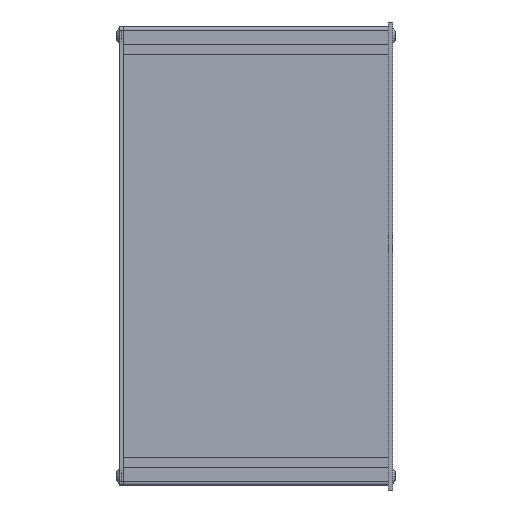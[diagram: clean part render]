
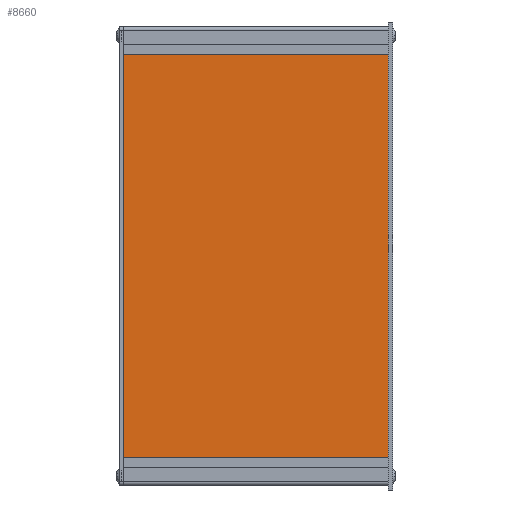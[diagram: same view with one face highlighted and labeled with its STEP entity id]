
A CAD part, left-side view. The second image highlights one B-rep face of the part: STEP entity #8660.
In plain terms, the highlighted planar face has unit normal (-1, 0, 0).
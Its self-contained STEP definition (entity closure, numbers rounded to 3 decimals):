
#952=PLANE('',#9524);
#1250=FACE_OUTER_BOUND('',#1790,.T.);
#1790=EDGE_LOOP('',(#6637,#6638,#6639,#6640));
#2564=LINE('',#13700,#3252);
#2574=LINE('',#13721,#3262);
#2575=LINE('',#13723,#3263);
#2576=LINE('',#13724,#3264);
#3252=VECTOR('',#10976,10.);
#3262=VECTOR('',#10994,10.);
#3263=VECTOR('',#10995,10.);
#3264=VECTOR('',#10996,10.);
#4260=VERTEX_POINT('',#13693);
#4263=VERTEX_POINT('',#13698);
#4270=VERTEX_POINT('',#13720);
#4271=VERTEX_POINT('',#13722);
#5115=EDGE_CURVE('',#4260,#4263,#2564,.T.);
#5125=EDGE_CURVE('',#4260,#4270,#2574,.T.);
#5126=EDGE_CURVE('',#4271,#4263,#2575,.T.);
#5127=EDGE_CURVE('',#4270,#4271,#2576,.T.);
#6637=ORIENTED_EDGE('',*,*,#5125,.F.);
#6638=ORIENTED_EDGE('',*,*,#5115,.T.);
#6639=ORIENTED_EDGE('',*,*,#5126,.F.);
#6640=ORIENTED_EDGE('',*,*,#5127,.F.);
#8660=ADVANCED_FACE('',(#1250),#952,.T.);
#9524=AXIS2_PLACEMENT_3D('',#13719,#10992,#10993);
#10976=DIRECTION('',(0.,1.,0.));
#10992=DIRECTION('center_axis',(-1.,0.,0.));
#10993=DIRECTION('ref_axis',(0.,0.,1.));
#10994=DIRECTION('',(0.,0.,-1.));
#10995=DIRECTION('',(0.,0.,1.));
#10996=DIRECTION('',(0.,1.,0.));
#13693=CARTESIAN_POINT('',(239.,0.,69.8));
#13698=CARTESIAN_POINT('',(239.,150.,69.8));
#13700=CARTESIAN_POINT('',(239.,0.,69.8));
#13719=CARTESIAN_POINT('Origin',(239.,0.,-157.9));
#13720=CARTESIAN_POINT('',(239.,0.,-157.9));
#13721=CARTESIAN_POINT('',(239.,0.,-44.05));
#13722=CARTESIAN_POINT('',(239.,150.,-157.9));
#13723=CARTESIAN_POINT('',(239.,150.,-44.05));
#13724=CARTESIAN_POINT('',(239.,0.,-157.9));
